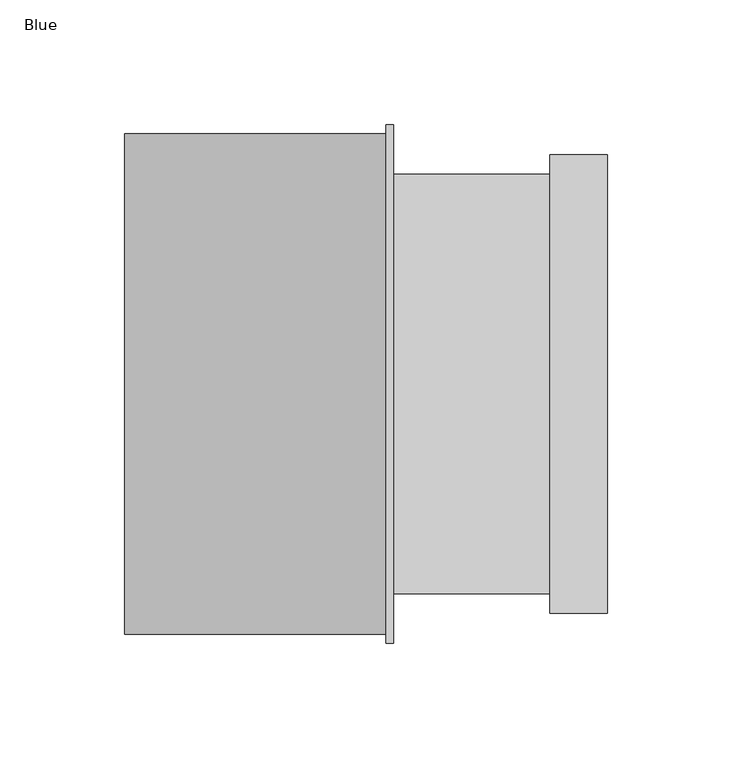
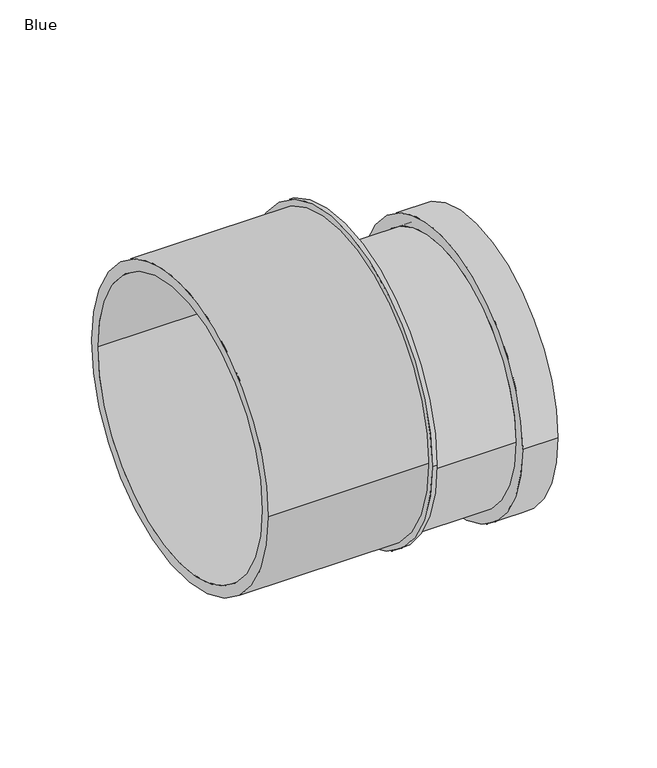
"""IFC4 building model written with IfcOpenShell, lengths in millimetres: pipe fitting geometry, AWADUKT PP Transition : Blue."""

from ifc_helpers import new_model, si_unit, point, frame, frame_2d, origin, origin_2d, place, context, project, spatial, polyline, circle_curve, trimmed, segment, composite_curve, outline, extrude, source, transform, mapped, element, save
from ifc_brep_helpers import plane_surface, cylinder_surface, revolved_surface, advanced_brep


def blue_271a95f6(model_context):
    return source(origin(), model_context, "Body", "SolidModel", [
        extrude(outline(composite_curve([segment(trimmed(circle_curve(origin_2d(), 104.15), [point((-104.15, 0.0))], [point((104.15, 0.0))], False, "CARTESIAN"), True, "CONTINUOUS"), segment(trimmed(circle_curve(origin_2d(), 104.15), [point((104.15, 0.0))], [point((-104.15, 0.0))], False, "CARTESIAN"), True, "CONTINUOUS")], self_intersect=False), holes=[composite_curve([segment(trimmed(circle_curve(frame_2d((0.0, -18.4)), 75.2), [point((-75.2, -18.4))], [point((75.2, -18.4))], True, "CARTESIAN"), True, "CONTINUOUS"), segment(trimmed(circle_curve(frame_2d((0.0, -18.4)), 75.2), [point((75.2, -18.4))], [point((-75.2, -18.4))], True, "CARTESIAN"), True, "CONTINUOUS")], self_intersect=False)]), frame((109.5, 0.0, 0.0), z_axis=(1.0, 0.0, 0.0), x_axis=(0.0, 1.0, 0.0)), (0.0, 0.0, 1.0), 3.0),
        advanced_brep(
        [(175.5, -84.3, -18.4), (175.5, 84.3, -18.4), (112.5, 84.3, -18.4), (112.5, -84.3, -18.4), (198.5, -92.1, -18.4), (198.5, 92.1, -18.4), (175.5, 92.1, -18.4), (175.5, -92.1, -18.4), (194.2, -80.0, -18.4), (194.2, 80.0, -18.4), (198.5, 80.0, -18.4), (198.5, -80.0, -18.4), (179.8, -84.3, -18.4), (179.8, 84.3, -18.4), (194.2, 84.3, -18.4), (194.2, -84.3, -18.4), (112.5, -80.0, -18.4), (112.5, 80.0, -18.4), (179.8, 80.0, -18.4), (179.8, -80.0, -18.4)],
        [
            (0, 1, circle_curve(frame((175.5, 0.0, -18.4), z_axis=(-1.0, 0.0, 0.0), x_axis=(0.0, 1.0, 0.0)), 84.3)),
            (1, 2),
            (2, 3, circle_curve(frame((112.5, 0.0, -18.4), z_axis=(1.0, 0.0, 0.0), x_axis=(0.0, 1.0, 0.0)), 84.3)),
            (3, 0),
            (4, 5, circle_curve(frame((198.5, 0.0, -18.4), z_axis=(-1.0, 0.0, 0.0), x_axis=(0.0, 1.0, 0.0)), 92.1)),
            (5, 6),
            (6, 7, circle_curve(frame((175.5, 0.0, -18.4), z_axis=(1.0, 0.0, 0.0), x_axis=(0.0, 1.0, 0.0)), 92.1)),
            (7, 4),
            (8, 9, circle_curve(frame((194.2, 0.0, -18.4), z_axis=(-1.0, 0.0, 0.0), x_axis=(0.0, 1.0, 0.0)), 80.0)),
            (9, 10),
            (10, 11, circle_curve(frame((198.5, 0.0, -18.4), z_axis=(1.0, 0.0, 0.0), x_axis=(0.0, 1.0, 0.0)), 80.0)),
            (11, 8),
            (12, 13, circle_curve(frame((179.8, 0.0, -18.4), z_axis=(-1.0, 0.0, 0.0), x_axis=(0.0, 1.0, 0.0)), 84.3)),
            (13, 14),
            (14, 15, circle_curve(frame((194.2, 0.0, -18.4), z_axis=(1.0, 0.0, 0.0), x_axis=(0.0, 1.0, 0.0)), 84.3)),
            (15, 12),
            (16, 17, circle_curve(frame((112.5, 0.0, -18.4), z_axis=(-1.0, 0.0, 0.0), x_axis=(0.0, 1.0, 0.0)), 80.0)),
            (17, 18),
            (18, 19, circle_curve(frame((179.8, 0.0, -18.4), z_axis=(1.0, 0.0, 0.0), x_axis=(0.0, 1.0, 0.0)), 80.0)),
            (19, 16),
            (2, 3, circle_curve(frame((112.5, 0.0, -18.4), z_axis=(-1.0, 0.0, 0.0), x_axis=(0.0, -1.0, 0.0)), 84.3)),
            (16, 17, circle_curve(frame((112.5, 0.0, -18.4), z_axis=(1.0, 0.0, 0.0), x_axis=(0.0, -1.0, 0.0)), 80.0)),
            (1, 0, circle_curve(frame((175.5, 0.0, -18.4), z_axis=(-1.0, 0.0, 0.0), x_axis=(0.0, -1.0, 0.0)), 84.3)),
            (6, 7, circle_curve(frame((175.5, 0.0, -18.4), z_axis=(-1.0, 0.0, 0.0), x_axis=(0.0, -1.0, 0.0)), 92.1)),
            (5, 4, circle_curve(frame((198.5, 0.0, -18.4), z_axis=(-1.0, 0.0, 0.0), x_axis=(0.0, -1.0, 0.0)), 92.1)),
            (10, 11, circle_curve(frame((198.5, 0.0, -18.4), z_axis=(-1.0, 0.0, 0.0), x_axis=(0.0, -1.0, 0.0)), 80.0)),
            (9, 8, circle_curve(frame((194.2, 0.0, -18.4), z_axis=(-1.0, 0.0, 0.0), x_axis=(0.0, -1.0, 0.0)), 80.0)),
            (14, 15, circle_curve(frame((194.2, 0.0, -18.4), z_axis=(-1.0, 0.0, 0.0), x_axis=(0.0, -1.0, 0.0)), 84.3)),
            (13, 12, circle_curve(frame((179.8, 0.0, -18.4), z_axis=(-1.0, 0.0, 0.0), x_axis=(0.0, -1.0, 0.0)), 84.3)),
            (18, 19, circle_curve(frame((179.8, 0.0, -18.4), z_axis=(-1.0, 0.0, 0.0), x_axis=(0.0, -1.0, 0.0)), 80.0)),
        ],
        [
            cylinder_surface(frame((112.5, 0.0, -18.4), z_axis=(1.0, 0.0, 0.0), x_axis=(0.0, 1.0, 0.0)), 84.3),
            cylinder_surface(frame((112.5, 0.0, -18.4), z_axis=(1.0, 0.0, 0.0), x_axis=(0.0, 1.0, 0.0)), 92.1),
            revolved_surface(polyline([(198.5, 80.0, -18.4), (194.2, 80.0, -18.4)]), (112.5, 0.0, -18.4), (1.0, 0.0, 0.0)),
            revolved_surface(polyline([(194.2, 84.3, -18.4), (179.8, 84.3, -18.4)]), (112.5, 0.0, -18.4), (1.0, 0.0, 0.0)),
            revolved_surface(polyline([(179.8, 80.0, -18.4), (112.5, 80.0, -18.4)]), (112.5, 0.0, -18.4), (1.0, 0.0, 0.0)),
            plane_surface(frame((112.5, 0.0, -18.4), z_axis=(-1.0, 0.0, 0.0), x_axis=(0.0, -1.0, 0.0))),
            cylinder_surface(frame((112.5, 0.0, -18.4), z_axis=(1.0, 0.0, 0.0), x_axis=(0.0, -1.0, 0.0)), 84.3),
            plane_surface(frame((175.5, 0.0, -18.4), z_axis=(-1.0, 0.0, 0.0), x_axis=(0.0, -1.0, 0.0))),
            cylinder_surface(frame((112.5, 0.0, -18.4), z_axis=(1.0, 0.0, 0.0), x_axis=(0.0, -1.0, 0.0)), 92.1),
            plane_surface(frame((198.5, 0.0, -18.4), z_axis=(1.0, 0.0, 0.0), x_axis=(0.0, -1.0, 0.0))),
            revolved_surface(polyline([(198.5, -80.0, -18.4), (194.2, -80.0, -18.4)]), (112.5, 0.0, -18.4), (1.0, 0.0, 0.0)),
            plane_surface(frame((194.2, 0.0, -18.4), z_axis=(-1.0, 0.0, 0.0), x_axis=(0.0, -1.0, 0.0))),
            revolved_surface(polyline([(194.2, -84.3, -18.4), (179.8, -84.3, -18.4)]), (112.5, 0.0, -18.4), (1.0, 0.0, 0.0)),
            plane_surface(frame((179.8, 0.0, -18.4), z_axis=(1.0, 0.0, 0.0), x_axis=(0.0, -1.0, 0.0))),
            revolved_surface(polyline([(179.8, -80.0, -18.4), (112.5, -80.0, -18.4)]), (112.5, 0.0, -18.4), (1.0, 0.0, 0.0)),
        ],
        [
            (0, [[1, 2, 3, 4]]),
            (1, [[5, 6, 7, 8]]),
            (2, [[9, 10, 11, 12]]),
            (3, [[13, 14, 15, 16]]),
            (4, [[17, 18, 19, 20]]),
            (5, [[21, -3], [22, -17]]),
            (6, [[23, -4, -21, -2]]),
            (7, [[24, -7], [-23, -1]]),
            (8, [[25, -8, -24, -6]]),
            (9, [[-25, -5], [26, -11]]),
            (10, [[27, -12, -26, -10]]),
            (11, [[28, -15], [-27, -9]]),
            (12, [[29, -16, -28, -14]]),
            (13, [[-29, -13], [30, -19]]),
            (14, [[-22, -20, -30, -18]]),
        ],
    ),
        extrude(outline(composite_curve([segment(trimmed(circle_curve(origin_2d(), 100.4), [point((-100.4, 0.0))], [point((100.4, 0.0))], False, "CARTESIAN"), True, "CONTINUOUS"), segment(trimmed(circle_curve(origin_2d(), 100.4), [point((100.4, 0.0))], [point((-100.4, 0.0))], False, "CARTESIAN"), True, "CONTINUOUS")], self_intersect=False), holes=[composite_curve([segment(trimmed(circle_curve(origin_2d(), 93.1), [point((93.1, 0.0))], [point((-93.1, 0.0))], True, "CARTESIAN"), True, "CONTINUOUS"), segment(trimmed(circle_curve(origin_2d(), 93.1), [point((-93.1, 0.0))], [point((93.1, 0.0))], True, "CARTESIAN"), True, "CONTINUOUS")], self_intersect=False)]), frame((4.5, 0.0, 0.0), z_axis=(1.0, 0.0, 0.0), x_axis=(0.0, 1.0, 0.0)), (0.0, 0.0, 1.0), 105.0),
    ])


if __name__ == "__main__":
    model = new_model("IFC4")
    model_context = context("Model", 3, world=origin())
    ifc_project = project(units=[si_unit("LENGTHUNIT", "METRE", prefix="MILLI")], contexts=[model_context])
    site = spatial("IfcSite", under=ifc_project)
    building = spatial("IfcBuilding", under=site)
    placement = place(None, origin())
    blue_shape = blue_271a95f6(model_context)
    element("IfcPipeFitting", 1, ObjectType="AWADUKT PP Transition : Blue", at=placement, inside=building, context=model_context, shape_type="MappedRepresentation", body=[
        mapped(blue_shape, transform((0.0, 0.0, 0.0), x_axis=(1.0, 0.0, 0.0), y_axis=(0.0, 1.0, 0.0), z_axis=(0.0, 0.0, 1.0))),
    ])
    save(model, "model.ifc")
